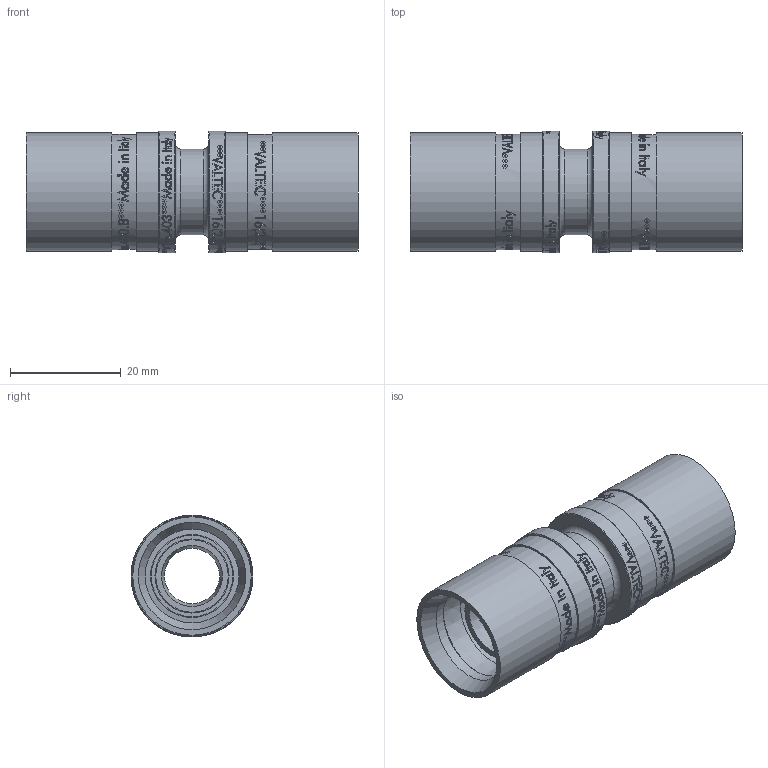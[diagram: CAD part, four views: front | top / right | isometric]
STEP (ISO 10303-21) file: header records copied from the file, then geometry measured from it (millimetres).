
FILE_DESCRIPTION(/* description */ (''),/* implementation_level */ '2;1');
FILE_NAME(/* name */ 'F:\Артём\00000\Работа удаленка\Аксеальные фитинги\VTm.403.BG.001616.stp',/* time_stamp */ '2021-01-25T15:32:51+03:00',/* author */ ('almis'),/* organization */ (''),/* preprocessor_version */ 'ST-DEVELOPER v18',/* originating_system */ 'Autodesk Inventor 2020',/* authorisation */ '');
FILE_SCHEMA (('AUTOMOTIVE_DESIGN { 1 0 10303 214 3 1 1 }'));
Length unit declared in the file: millimetre
Products named in the file (1): VTm.403.BG.001616
Bounding box: 60.02 x 22 x 22 mm (x, y, z)
Volume: 10365.7 mm3; surface area: 10352.6 mm2
Topology: 1 solids, 1 shells, 2462 faces, 6782 edges, 4546 vertices
Faces by surface type: bspline 1370, plane 778, cylinder 254, torus 46, cone 14
Full cylindrical faces by diameter (mm): 10 x1, 12.8 x10, 13.4 x8, 15 x2, 15.5 x1, 16.9 x4, 20.8 x2, 21.4 x4, 22 x2
Entity records: 103064 total; most frequent: CARTESIAN_POINT 48602, ORIENTED_EDGE 13564, DIRECTION 7320, EDGE_CURVE 6782, VERTEX_POINT 4546, LINE 2926, VECTOR 2926, B_SPLINE_CURVE_WITH_KNOTS 2752
